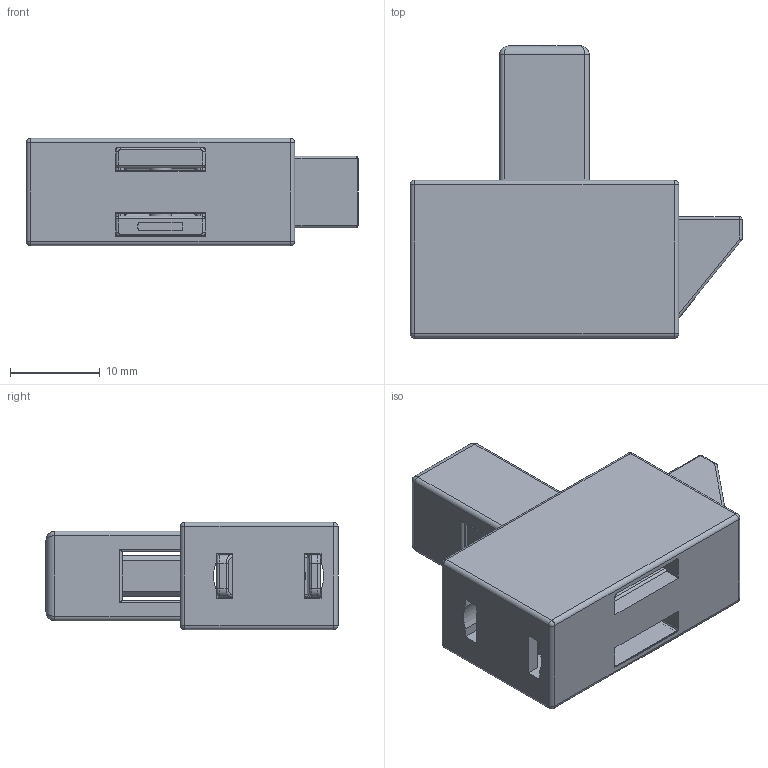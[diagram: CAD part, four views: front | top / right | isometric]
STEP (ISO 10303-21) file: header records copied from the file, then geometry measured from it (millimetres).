
FILE_DESCRIPTION (( 'STEP AP203' ), '1' );
FILE_NAME ('DK637Z3G000001.STEP', '2016-07-11T05:15:55', ( 'master' ), ( 'Microsoft' ), 'SwSTEP 2.0', 'SolidWorks 2014', '' );
FILE_SCHEMA (( 'CONFIG_CONTROL_DESIGN' ));
Length unit declared in the file: millimetre
Products named in the file (7): XZ-110719; THㄗ2ㄘ-110722; tp-110914; DK637Z3G000001; JZ-110720; SSE-110719; AN-110719
Assembly tree (7 placements, depth 2):
  DK637Z3G000001
    JZ-110720
    SSE-110719
    AN-110719
    XZ-110719
    THㄗ2ㄘ-110722  x2
    tp-110914
Bounding box: 37.06 x 32.6 x 12 mm (x, y, z)
Volume: 5762.7 mm3; surface area: 7152.3 mm2
Topology: 8 solids, 8 shells, 674 faces, 1576 edges, 890 vertices
Faces by surface type: plane 354, cylinder 204, torus 47, sphere 32, bspline 20, cone 17
Entity records: 23614 total; most frequent: CARTESIAN_POINT 7595, DIRECTION 3389, ORIENTED_EDGE 3086, EDGE_CURVE 1543, AXIS2_PLACEMENT_3D 1255, VERTEX_POINT 885, LINE 879, VECTOR 879
